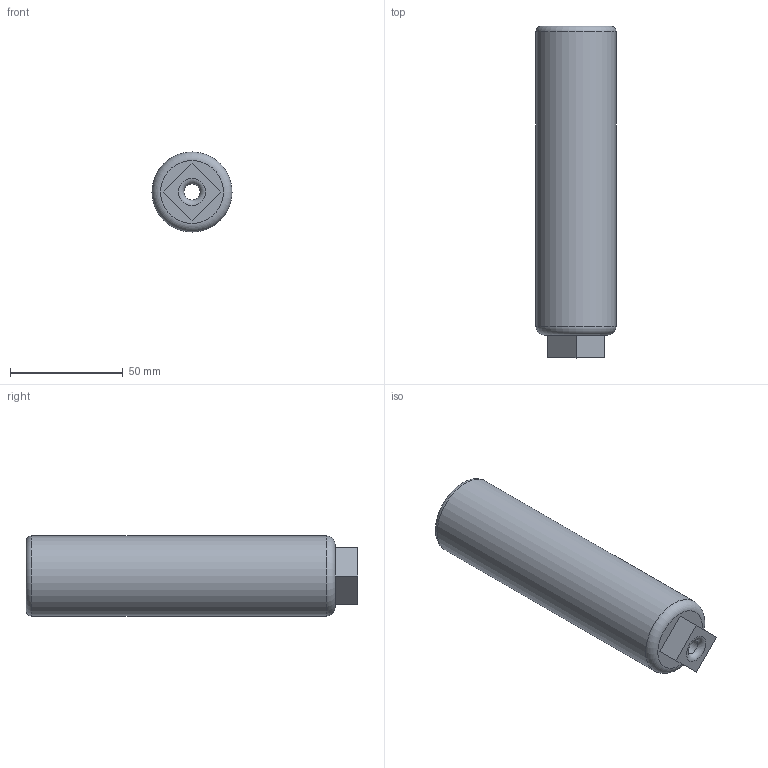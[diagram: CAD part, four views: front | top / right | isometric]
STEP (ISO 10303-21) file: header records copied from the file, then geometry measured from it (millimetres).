
FILE_DESCRIPTION(/* description */ (''),/* implementation_level */ '2;1');
FILE_NAME(/* name */ 'C:/Users/Owner/Desktop/liberator suppressed/STEP Files/22 Caliber versions/22 Cal Liberator Suppressor can 5.8 inch.step',/* time_stamp */ '2020-04-23T22:16:42-04:00',/* author */ (''),/* organization */ (''),/* preprocessor_version */ 'ST-DEVELOPER v18.1',/* originating_system */ 'Autodesk Translation Framework v9.2.0.1227',/* authorisation */ '');
FILE_SCHEMA (('AUTOMOTIVE_DESIGN { 1 0 10303 214 3 1 1 }'));
Length unit declared in the file: inch
Products named in the file (1): 22 cal lib sup 5.8 inch
Bounding box: 35.56 x 147.32 x 35.56 mm (x, y, z)
Volume: 89609.9 mm3; surface area: 29185.7 mm2
Topology: 1 solids, 1 shells, 50 faces, 136 edges, 90 vertices
Faces by surface type: cylinder 34, plane 9, torus 5, bspline 2
Full cylindrical faces by diameter (mm): 7.112 x1, 22.288 x15, 25.4 x14, 35.56 x1
Entity records: 4524 total; most frequent: CARTESIAN_POINT 3310, ORIENTED_EDGE 272, DIRECTION 207, EDGE_CURVE 136, VERTEX_POINT 90, AXIS2_PLACEMENT_3D 81, B_SPLINE_CURVE_WITH_KNOTS 59, EDGE_LOOP 54
